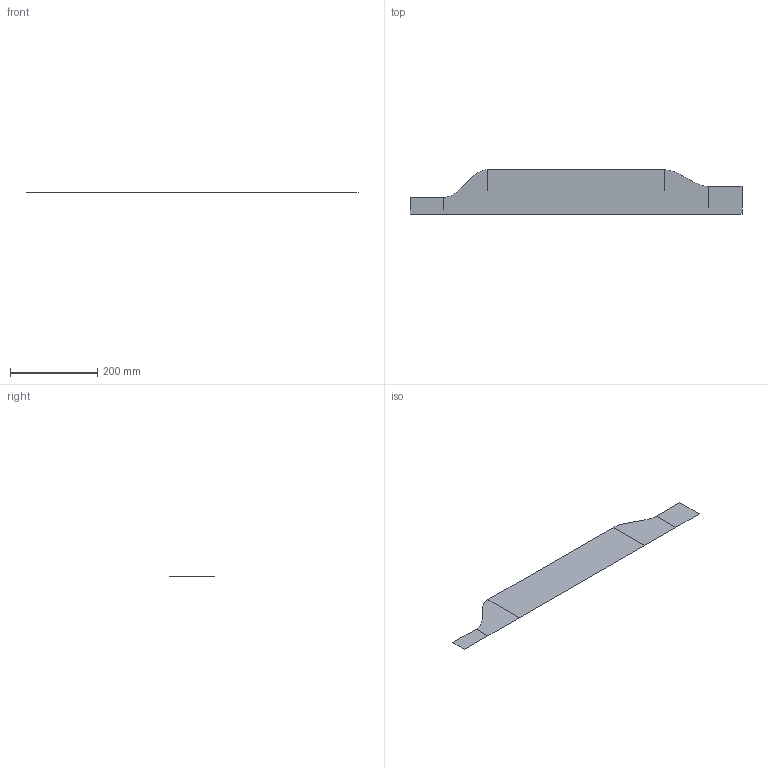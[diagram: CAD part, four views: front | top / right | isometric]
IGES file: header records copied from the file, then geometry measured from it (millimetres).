
Start section: /COM,ANSYS RELEASE  9.0    UP20041104       10:46:49    03/14/2007 /NOPR /PREP7 /TITLE, BFUNIF,TEMP,_TINY KUSE,0 TIME,0.00000000 TREF,0.00000000 ALPHAD,0.00000000 BETAD,0.00000000 DMPRAT,0.00000000 CRPLIM,0.100000000,0 CRPLIM,0.00000000,1 NCNV,1,0.00000000,0,0.00000000,0.00000000 NEQIT,0 ERESX,DEFA ACEL,0.00000000,0.00000000,0.00000000 OMEGA,0.00000000,0.00000000,0.00000000,0 DOMEGA,0.00000000,0.0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
Global section: file name: EX7-11.iges; native system: ANSYS; preprocessor:   9.0      UP20041104; date: 000314.104649
Bounding box: 762 x 101.6 x 0 mm (x, y, z)
Surface area: 64516 mm2 (no closed solid volume)
Topology: 0 solids, 0 shells, 5 faces, 20 edges, 20 vertices
Faces by surface type: bspline 5
